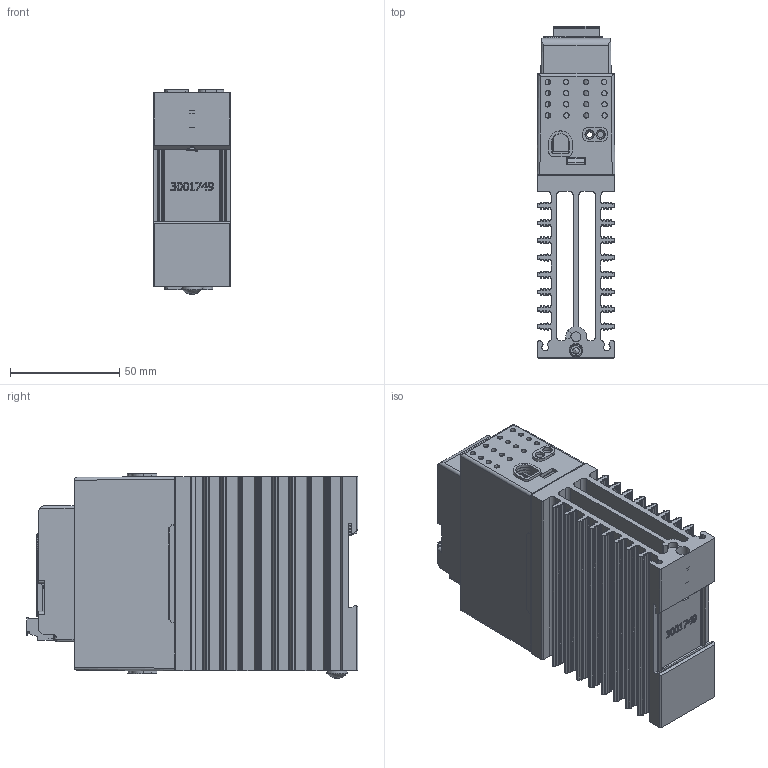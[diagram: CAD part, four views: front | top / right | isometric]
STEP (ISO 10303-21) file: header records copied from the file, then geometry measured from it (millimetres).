
FILE_DESCRIPTION(/* description */ (''),/* implementation_level */ '2;1');
FILE_NAME(/* name */ '1-phase Digital 32A.stp',/* time_stamp */ '2024-10-29T13:40:46-05:00',/* author */ ('ErikG'),/* organization */ (''),/* preprocessor_version */ 'ST-DEVELOPER v20',/* originating_system */ 'Autodesk Inventor 2025',/* authorisation */ '');
FILE_SCHEMA (('AUTOMOTIVE_DESIGN { 1 0 10303 214 3 1 1 }'));
Products named in the file (23): 3001631e; 3001762; 1001592E; P6; fci 6 pin header OQ06120000J0G; fci 6 pin headerOQ06120000J0G half 1; fci 5 pin header OQ05120000J0G half 2; 0053035-0138-06; P4; P5; usb-c31-s-vt-cs4-bk-pp-t-r-model ADAMTECH; P2; 74990101210 (rev1); base; shielding; 3001759; 3001760; 3001755; 3001756; 3001749; 0060702-1032-0375; 0060783-0610-010.ipt; spring
Assembly tree (24 placements, depth 5):
  3001631e
    3001762
    1001592E
      P6
        fci 6 pin header OQ06120000J0G
          fci 6 pin headerOQ06120000J0G half 1
          fci 5 pin header OQ05120000J0G half 2
          0053035-0138-06
      P4
        74990101210 (rev1)
          base
          shielding
      P5
        usb-c31-s-vt-cs4-bk-pp-t-r-model ADAMTECH
      P2
        74990101210 (rev1)
          base
          shielding
    3001759
    3001760  x2
    3001755
    3001756
    3001749
    0060702-1032-0375
    0060783-0610-010.ipt
    spring
Bounding box: 35.56 x 151.78 x 93.5 mm (x, y, z)
Volume: 165482.2 mm3; surface area: 164568.6 mm2
Topology: 19 solids, 109 shells, 6386 faces, 17504 edges, 11441 vertices
Faces by surface type: plane 4607, cylinder 1305, cone 211, bspline 174, torus 70, sphere 19
Full cylindrical faces by diameter (mm): 0.254 x1, 0.45 x2, 0.55 x2, 0.65 x2, 1 x2, 2.3 x12, 2.54 x2, 2.642 x3, 2.95 x6, 3.277 x2, 4.826 x1, 4.917 x1, 6 x1, 6.172 x1, 7.976 x1, 9.474 x1
Entity records: 195757 total; most frequent: CARTESIAN_POINT 49098, ORIENTED_EDGE 30964, DIRECTION 28830, EDGE_CURVE 15482, LINE 11660, VECTOR 11660, VERTEX_POINT 10143, AXIS2_PLACEMENT_3D 8585
